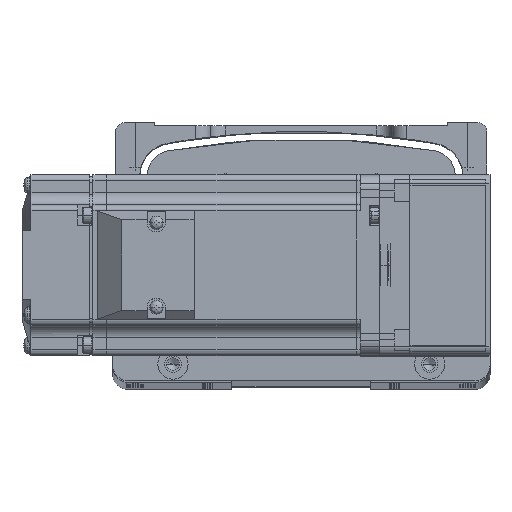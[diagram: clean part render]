
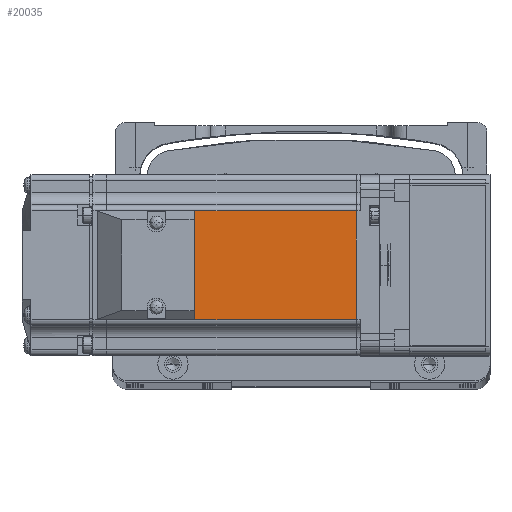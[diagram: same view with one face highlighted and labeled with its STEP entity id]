
A CAD part, top view. The second image highlights one B-rep face of the part: STEP entity #20035.
In plain terms, the highlighted planar face has unit normal (0, 0, 1) as drawn and (0, 1, 0) by its records, which use the part's own axes.
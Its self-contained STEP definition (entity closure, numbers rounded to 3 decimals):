
#340 = DIRECTION ( 'NONE',  ( 1., 0., 0. ) ) ;
#3494 = DIRECTION ( 'NONE',  ( 0., 0., 1. ) ) ;
#3711 = DIRECTION ( 'NONE',  ( 0., 1., 0. ) ) ;
#8550 = DIRECTION ( 'NONE',  ( 0., 0., 1. ) ) ;
#9431 = CARTESIAN_POINT ( 'NONE',  ( -7.75, 30., 0. ) ) ;
#11126 = EDGE_LOOP ( 'NONE', ( #53788, #72390, #27644, #50792 ) ) ;
#11794 = VECTOR ( 'NONE', #8550, 1000. ) ;
#11965 = CARTESIAN_POINT ( 'NONE',  ( -90.45, 30., -18. ) ) ;
#12562 = EDGE_CURVE ( 'NONE', #31873, #72508, #58610, .T. ) ;
#17933 = CARTESIAN_POINT ( 'NONE',  ( -7.75, 30., -18. ) ) ;
#20035 = ADVANCED_FACE ( 'NONE', ( #38180 ), #83448, .T. ) ;
#27234 = VECTOR ( 'NONE', #49590, 1000. ) ;
#27644 = ORIENTED_EDGE ( 'NONE', *, *, #31886, .T. ) ;
#31472 = AXIS2_PLACEMENT_3D ( 'NONE', #43703, #3711, #50448 ) ;
#31873 = VERTEX_POINT ( 'NONE', #17933 ) ;
#31886 = EDGE_CURVE ( 'NONE', #72508, #32159, #38924, .T. ) ;
#32159 = VERTEX_POINT ( 'NONE', #79961 ) ;
#34139 = LINE ( 'NONE', #47075, #54079 ) ;
#38180 = FACE_OUTER_BOUND ( 'NONE', #11126, .T. ) ;
#38924 = LINE ( 'NONE', #50231, #56726 ) ;
#43703 = CARTESIAN_POINT ( 'NONE',  ( -6.5, 30., 25. ) ) ;
#47075 = CARTESIAN_POINT ( 'NONE',  ( -6.5, 30., 18. ) ) ;
#49590 = DIRECTION ( 'NONE',  ( -1., 0., 0. ) ) ;
#50231 = CARTESIAN_POINT ( 'NONE',  ( -90.45, 30., 0. ) ) ;
#50448 = DIRECTION ( 'NONE',  ( 0., 0., 1. ) ) ;
#50792 = ORIENTED_EDGE ( 'NONE', *, *, #63497, .T. ) ;
#53788 = ORIENTED_EDGE ( 'NONE', *, *, #61980, .F. ) ;
#54079 = VECTOR ( 'NONE', #340, 1000. ) ;
#56726 = VECTOR ( 'NONE', #3494, 1000. ) ;
#58610 = LINE ( 'NONE', #82891, #27234 ) ;
#61980 = EDGE_CURVE ( 'NONE', #31873, #83089, #65055, .T. ) ;
#63497 = EDGE_CURVE ( 'NONE', #32159, #83089, #34139, .T. ) ;
#65055 = LINE ( 'NONE', #9431, #11794 ) ;
#69961 = CARTESIAN_POINT ( 'NONE',  ( -7.75, 30., 18. ) ) ;
#72390 = ORIENTED_EDGE ( 'NONE', *, *, #12562, .T. ) ;
#72508 = VERTEX_POINT ( 'NONE', #11965 ) ;
#79961 = CARTESIAN_POINT ( 'NONE',  ( -90.45, 30., 18. ) ) ;
#82891 = CARTESIAN_POINT ( 'NONE',  ( -6.5, 30., -18. ) ) ;
#83089 = VERTEX_POINT ( 'NONE', #69961 ) ;
#83448 = PLANE ( 'NONE',  #31472 ) ;
